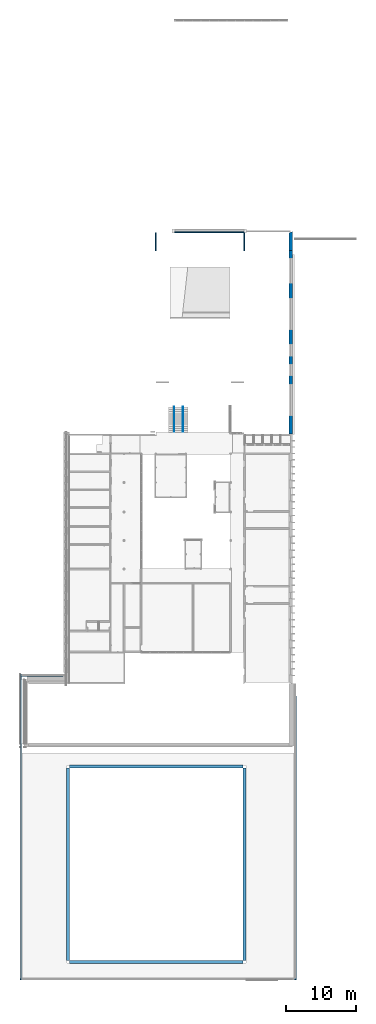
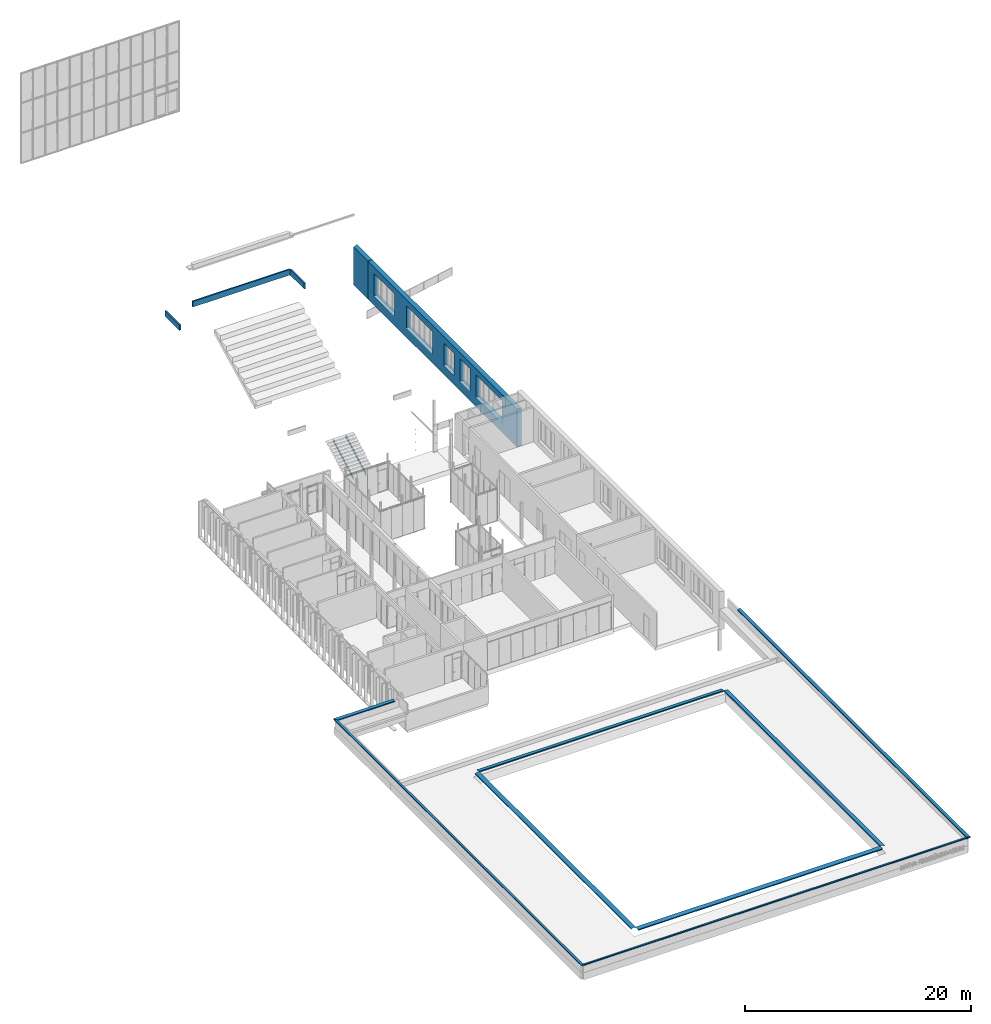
# One storey, part 33 of 387: 8 discrete accessories, 5 walls, 2 stairs, 5 openings.
"""IFC2X3 building model written with IfcOpenShell, lengths in millimetres."""

from ifc_helpers import new_model, entity, si_unit, converted_unit, derived_unit, money_unit, direction, frame, origin_with_axes, origin_2d_with_axis, place, context, subcontext, project, spatial, polyline, rectangle, outline, extrude, faceted_brep, source, transform, mapped, material, layer, layer_set, layer_usage, type_object, element, save


model = new_model("IFC2X3")

# Units and contexts
model_context = context("Model", 3, precision=0.01, world=origin_with_axes(), true_north=direction((0.0, 1.0)))
body_context = subcontext(model_context, "Body", "Model", "MODEL_VIEW")
ifc_project = project(units=[si_unit("LENGTHUNIT", "METRE", prefix="MILLI"), si_unit("AREAUNIT", "SQUARE_METRE"), si_unit("VOLUMEUNIT", "CUBIC_METRE"), converted_unit("PLANEANGLEUNIT", "DEGREE", entity("IfcPlaneAngleMeasure", 0.0174532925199), si_unit("PLANEANGLEUNIT", "RADIAN"), dimensions=[0, 0, 0, 0, 0, 0, 0]), si_unit("SOLIDANGLEUNIT", "STERADIAN"), money_unit("EUR"), converted_unit("TIMEUNIT", "Year", entity("IfcTimeMeasure", 31556926.0), si_unit("TIMEUNIT", "SECOND"), dimensions=[0, 0, 1, 0, 0, 0, 0]), si_unit("MASSUNIT", "GRAM", prefix="KILO"), si_unit("THERMODYNAMICTEMPERATUREUNIT", "DEGREE_CELSIUS"), si_unit("LUMINOUSINTENSITYUNIT", "LUMEN"), si_unit("ENERGYUNIT", "JOULE", prefix="MEGA"), derived_unit("THERMALCONDUCTANCEUNIT", [(si_unit("POWERUNIT", "WATT"), 1), (si_unit("LENGTHUNIT", "METRE"), -1), (si_unit("THERMODYNAMICTEMPERATUREUNIT", "KELVIN"), -1)]), derived_unit("SPECIFICHEATCAPACITYUNIT", [(si_unit("ENERGYUNIT", "JOULE"), 1), (si_unit("MASSUNIT", "GRAM", prefix="KILO"), -1), (si_unit("THERMODYNAMICTEMPERATUREUNIT", "KELVIN"), -1)]), derived_unit("MASSDENSITYUNIT", [(si_unit("MASSUNIT", "GRAM", prefix="KILO"), 1), (si_unit("VOLUMEUNIT", "CUBIC_METRE"), -1)])], contexts=[model_context])

# Site, building, storey
site_placement = place(None, origin_with_axes())
site = spatial("IfcSite", under=ifc_project, at=site_placement, Name="Puškini 31, Narva", CompositionType="ELEMENT")
building_placement = place(site_placement, origin_with_axes())
building = spatial("IfcBuilding", under=site, at=building_placement, Name="Narva Riigigümnaasium", CompositionType="ELEMENT")
storey_placement = place(building_placement, frame((0.0, 0.0, 2640.0), z_axis=(0.0, 0.0, 1.0), x_axis=(1.0, 0.0, 0.0)))
storey = spatial("IfcBuildingStorey", under=building, at=storey_placement, Name="2.korrus +2.64", CompositionType="ELEMENT", Elevation=2640.0)

# Wall, openings
ifc_material_1 = material(Name="fassaadiplaat")
ifc_layer_1 = layer(ifc_material_1, 8.0, ventilated="UNKNOWN")
ifc_material_2 = material(Name="Salto-roovitus")
ifc_layer_2 = layer(ifc_material_2, 50.0, ventilated="UNKNOWN")
ifc_material_3 = material(Name="Salto-PIR soojustus")
ifc_layer_3 = layer(ifc_material_3, 50.0, ventilated="UNKNOWN")
ifc_layer_4 = layer(ifc_material_3, 150.0, ventilated="UNKNOWN")
ifc_material_4 = material(Name="Betoon element")
ifc_layer_5 = layer(ifc_material_4, 200.0, ventilated="UNKNOWN")
ifc_material_5 = material(Name="Salto-siseviimistlus-seinad")
ifc_layer_6 = layer(ifc_material_5, 10.0, ventilated="UNKNOWN")
ifc_layer_set_1 = layer_set([ifc_layer_1, ifc_layer_2, ifc_layer_3, ifc_layer_4, ifc_layer_5, ifc_layer_6], Name="G-VS-01")
ifc_layer_usage_1 = layer_usage(ifc_layer_set_1, "AXIS2", "POSITIVE", -458.0)
wall_type_1 = type_object("IfcWallType", Name="G-VS-01 468", PredefinedType="NOTDEFINED")
wall_1_placement = place(storey_placement, frame((53999.999986, 194900.0, -2375.0), z_axis=(0.0, 0.0, 1.0), x_axis=(0.0, 1.0, 0.0)))
wall_1 = element("IfcWallStandardCase", 1, at=wall_1_placement, inside=storey, type_object=wall_type_1, material=ifc_layer_usage_1, Name="Välissein", context=body_context, shape_type="SweptSolid", body=[
    extrude(outline(polyline([(0.0, -458.0), (26379.9999984, -458.0), (26379.9999984, 10.0), (0.0, 10.0), (0.0, -458.0)])), origin_with_axes(), (0.0, 0.0, 1.0), 4095.0),
])
opening_1_placement = place(wall_1_placement, frame((23450.0000001, 0.0, 995.0), z_axis=(0.0, 0.0, 1.0), x_axis=(1.0, 0.0, 0.0)))
element("IfcOpeningElement", 2, at=opening_1_placement, cuts=wall_1, Name="G-A-19", context=body_context, shape_type="SweptSolid", body=[
    extrude(rectangle(XDim=3650.0, YDim=2430.0, at=origin_2d_with_axis()), frame((0.0, -308.0, 1215.0), z_axis=(0.0, -1.0, 0.0), x_axis=(1.0, 0.0, 0.0)), (0.0, 0.0, -1.0), 786.0),
    extrude(rectangle(XDim=3650.0, YDim=2430.0, at=origin_2d_with_axis()), frame((0.0, -308.0, 1215.0), z_axis=(0.0, 1.0, 0.0), x_axis=(1.0, 0.0, 0.0)), (0.0, 0.0, -1.0), 618.0),
])
opening_2_placement = place(wall_1_placement, frame((17275.0000001, 0.0, 995.0), z_axis=(0.0, 0.0, 1.0), x_axis=(1.0, 0.0, 0.0)))
element("IfcOpeningElement", 3, at=opening_2_placement, cuts=wall_1, Name="G-A-23", context=body_context, shape_type="SweptSolid", body=[
    extrude(rectangle(XDim=4600.0, YDim=2430.0, at=origin_2d_with_axis()), frame((0.0, -308.0, 1215.0), z_axis=(0.0, -1.0, 0.0), x_axis=(1.0, 0.0, 0.0)), (0.0, 0.0, -1.0), 786.0),
    extrude(rectangle(XDim=4600.0, YDim=2430.0, at=origin_2d_with_axis()), frame((0.0, -308.0, 1215.0), z_axis=(0.0, 1.0, 0.0), x_axis=(1.0, 0.0, 0.0)), (0.0, 0.0, -1.0), 618.0),
])
opening_3_placement = place(wall_1_placement, frame((12050.0000001, 0.0, 995.0), z_axis=(0.0, 0.0, 1.0), x_axis=(1.0, 0.0, 0.0)))
element("IfcOpeningElement", 4, at=opening_3_placement, cuts=wall_1, Name="G-A-08", context=body_context, shape_type="SweptSolid", body=[
    extrude(rectangle(XDim=1750.0, YDim=2430.0, at=origin_2d_with_axis()), frame((0.0, -308.0, 1215.0), z_axis=(0.0, 1.0, 0.0), x_axis=(-1.0, 0.0, 0.0)), (0.0, 0.0, 1.0), 786.0),
    extrude(rectangle(XDim=1750.0, YDim=2430.0, at=origin_2d_with_axis()), frame((0.0, -308.0, 1215.0), z_axis=(0.0, -1.0, 0.0), x_axis=(-1.0, 0.0, 0.0)), (0.0, 0.0, 1.0), 618.0),
])
opening_4_placement = place(wall_1_placement, frame((9200.00000013, 0.0, 995.0), z_axis=(0.0, 0.0, 1.0), x_axis=(1.0, 0.0, 0.0)))
element("IfcOpeningElement", 5, at=opening_4_placement, cuts=wall_1, Name="G-A-08", context=body_context, shape_type="SweptSolid", body=[
    extrude(rectangle(XDim=1750.0, YDim=2430.0, at=origin_2d_with_axis()), frame((0.0, -308.0, 1215.0), z_axis=(0.0, -1.0, 0.0), x_axis=(1.0, 0.0, 0.0)), (0.0, 0.0, -1.0), 786.0),
    extrude(rectangle(XDim=1750.0, YDim=2430.0, at=origin_2d_with_axis()), frame((0.0, -308.0, 1215.0), z_axis=(0.0, 1.0, 0.0), x_axis=(1.0, 0.0, 0.0)), (0.0, 0.0, -1.0), 618.0),
])
opening_5_placement = place(wall_1_placement, frame((4924.99999977, 0.0, 995.0), z_axis=(0.0, 0.0, 1.0), x_axis=(1.0, 0.0, 0.0)))
element("IfcOpeningElement", 6, at=opening_5_placement, cuts=wall_1, Name="G-A-23", context=body_context, shape_type="SweptSolid", body=[
    extrude(rectangle(XDim=4599.99999927, YDim=2430.0, at=origin_2d_with_axis()), frame((0.0, -308.0, 1215.0), z_axis=(0.0, -1.0, 0.0), x_axis=(1.0, 0.0, 0.0)), (0.0, 0.0, -1.0), 786.0),
    extrude(rectangle(XDim=4599.99999927, YDim=2430.0, at=origin_2d_with_axis()), frame((0.0, -308.0, 1215.0), z_axis=(0.0, 1.0, 0.0), x_axis=(1.0, 0.0, 0.0)), (0.0, 0.0, -1.0), 618.0),
])

# Walls
ifc_layer_set_2 = layer_set([ifc_layer_1, ifc_layer_2, ifc_layer_3, ifc_layer_4, ifc_layer_5], Name="G-VS-01-01")
ifc_layer_usage_2 = layer_usage(ifc_layer_set_2, "AXIS2", "POSITIVE", -458.0)
wall_type_2 = type_object("IfcWallType", Name="G-VS-01-01 458", PredefinedType="NOTDEFINED")
wall_2_placement = place(storey_placement, frame((53999.999986, 221279.999999, -2375.0), z_axis=(0.0, 0.0, 1.0), x_axis=(0.0, 1.0, 0.0)))
element("IfcWallStandardCase", 7, at=wall_2_placement, inside=storey, type_object=wall_type_2, material=ifc_layer_usage_2, Name="Välissein", context=body_context, shape_type="SweptSolid", body=[
    extrude(outline(polyline([(0.0, -458.0), (2730.00000689, -458.0), (2520.00000689, 0.0), (0.0, 0.0), (0.0, -458.0)])), origin_with_axes(), (0.0, 0.0, 1.0), 4095.0),
])
ifc_material_6 = material(Name="SKR-02_Kipsplaat")
ifc_layer_7 = layer(ifc_material_6, 12.5, ventilated="UNKNOWN")
ifc_material_7 = material(Name="SOJ-03_Soojustus - Mineraal Pehme")
ifc_layer_8 = layer(ifc_material_7, 100.0, ventilated="UNKNOWN")
ifc_layer_set_3 = layer_set([ifc_layer_7, ifc_layer_7, ifc_layer_8, ifc_layer_7, ifc_layer_7], Name="G-SS-09")
ifc_layer_usage_3 = layer_usage(ifc_layer_set_3, "AXIS2", "POSITIVE", 0.0)
wall_type_3 = type_object("IfcWallType", Name="G-SS-09 150", PredefinedType="NOTDEFINED")
wall_3_placement = place(storey_placement, frame((34899.9999996, 221279.988083, 970.0), z_axis=(0.0, 0.0, 1.0), x_axis=(0.0, 1.0, 0.0)))
element("IfcWallStandardCase", 8, at=wall_3_placement, inside=storey, type_object=wall_type_3, material=ifc_layer_usage_3, Name="Sisesein", context=body_context, shape_type="SweptSolid", body=[
    extrude(outline(polyline([(0.0, 0.0), (2520.01191667, 0.0), (2520.01191667, 150.0), (-2.52600784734e-06, 150.0), (0.0, 0.0)])), origin_with_axes(), (0.0, 0.0, 1.0), 605.0),
])
wall_4_placement = place(storey_placement, frame((47649.9950335, 221079.999999, 970.0), z_axis=(0.0, 0.0, 1.0), x_axis=(0.0, 1.0, 0.0)))
element("IfcWallStandardCase", 9, at=wall_4_placement, inside=storey, type_object=wall_type_3, material=ifc_layer_usage_3, Name="Sisesein", context=body_context, shape_type="SweptSolid", body=[
    extrude(outline(polyline([(200.0, 0.0), (2720.00000127, 0.0), (2720.00000127, 150.0), (200.0, 150.0), (200.0, 0.0)])), origin_with_axes(), (0.0, 0.0, 1.0), 605.0),
])
wall_5_placement = place(storey_placement, frame((37600.0, 223800.000007, 970.0), z_axis=(0.0, 0.0, 1.0), x_axis=(1.0, 0.0, 0.0)))
element("IfcWallStandardCase", 10, at=wall_5_placement, inside=storey, type_object=wall_type_3, material=ifc_layer_usage_3, Name="Sisesein", context=body_context, shape_type="SweptSolid", body=[
    extrude(outline(polyline([(0.0, 0.0), (9899.99999357, 0.0), (9899.99999357, 150.0), (0.0, 150.0), (0.0, 0.0)])), origin_with_axes(), (0.0, 0.0, 1.0), 605.0),
])

# Stairs
ifc_material_8 = material(Name="ET-03_Raud")
shared_shape = source(origin_with_axes(), body_context, "Body", "Brep", [
    faceted_brep([(-0.846762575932, 387.789206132, 0.0), (-0.84672905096, -23.2911253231, 0.0), (-0.846729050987, -23.2911253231, 10.0), (-0.84676257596, 387.789206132, 10.0), (277.740465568, 387.789206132, 0.0), (360.24045144, 552.789177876, 0.0), (577.740451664, 552.789177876, 0.0), (660.240488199, 717.789200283, 0.0), (877.740461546, 717.789200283, 0.0), (960.240498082, 882.789172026, 0.0), (1177.74045045, 882.789172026, 0.0), (1260.24038566, 1047.78919443, 0.0), (1477.74046163, 1047.78919443, 0.0), (1560.24039683, 1212.78921684, 0.0), (1777.74047369, 1212.78921684, 0.0), (1860.2404089, 1377.78923925, 0.0), (2077.74048396, 1377.78923925, 0.0), (2160.24057119, 1542.78926173, 0.0), (2377.74047078, 1542.78921105, 0.0), (2460.24045662, 1707.78918274, 0.0), (2677.74045705, 1707.78918274, 0.0), (2760.24044292, 1872.78920514, 0.0), (2977.74046853, 1872.78920514, 0.0), (3060.24050507, 2037.78922755, 0.0), (3277.74048021, 2037.78922755, 0.0), (3360.24051674, 2202.78919929, 0.0), (3599.15325093, 2202.78919929, 0.0), (3599.15325093, 1956.70883758, 0.0), (3599.15325093, 1956.70883758, 10.0), (277.740465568, 387.789206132, 10.0), (3599.15325093, 2202.78919929, 10.0), (3360.24051674, 2202.78919929, 10.0), (3277.74048021, 2037.78922755, 10.0), (3060.24050507, 2037.78922755, 10.0), (2977.74046853, 1872.78920514, 10.0), (2760.24044292, 1872.78920514, 10.0), (2677.74045705, 1707.78918274, 10.0), (2460.24045662, 1707.78918274, 10.0), (2377.74047078, 1542.78921105, 10.0), (2160.24057119, 1542.78926173, 10.0), (2077.74048396, 1377.78923925, 10.0), (1860.2404089, 1377.78923925, 10.0), (1777.74047369, 1212.78921684, 10.0), (1560.24039683, 1212.78921684, 10.0), (1477.74046163, 1047.78919443, 10.0), (1260.24038566, 1047.78919443, 10.0), (1177.74045045, 882.789172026, 10.0), (960.240498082, 882.789172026, 10.0), (877.740461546, 717.789200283, 10.0), (660.240488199, 717.789200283, 10.0), (577.740451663, 552.789177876, 10.0), (360.24045144, 552.789177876, 10.0)], [[[0, 1, 2, 3]], [[1, 0, 4, 5, 6, 7, 8, 9, 10, 11, 12, 13, 14, 15, 16, 17, 18, 19, 20, 21, 22, 23, 24, 25, 26, 27]], [[2, 1, 27, 28]], [[29, 3, 2, 28, 30, 31, 32, 33, 34, 35, 36, 37, 38, 39, 40, 41, 42, 43, 44, 45, 46, 47, 48, 49, 50, 51]], [[4, 0, 3, 29]], [[4, 29, 51, 5]], [[6, 5, 51, 50]], [[7, 6, 50, 49]], [[8, 7, 49, 48]], [[8, 48, 47, 9]], [[10, 9, 47, 46]], [[10, 46, 45, 11]], [[12, 11, 45, 44]], [[13, 12, 44, 43]], [[14, 13, 43, 42]], [[14, 42, 41, 15]], [[16, 15, 41, 40]], [[16, 40, 39, 17]], [[18, 17, 39, 38]], [[19, 18, 38, 37]], [[20, 19, 37, 36]], [[20, 36, 35, 21]], [[22, 21, 35, 34]], [[22, 34, 33, 23]], [[24, 23, 33, 32]], [[24, 32, 31, 25]], [[26, 25, 31, 30]], [[27, 26, 30, 28]]]),
])
for number, where, z_axis, x_axis, name in (
    (11, (37469.0103432, 195229.31808, -275.261342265), (1.0, 0.0, 0.0), (0.0, 1.0, 0.0), "MORPH-004"),
    (12, (38751.0103425, 195229.31808, -275.261342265), (1.0, 0.0, 0.0), (0.0, 1.0, 0.0), "MORPH-004"),
):
    element("IfcStair", number, at=place(storey_placement, frame(where, z_axis=z_axis, x_axis=x_axis)), inside=storey, material=ifc_material_8, Name=name, ShapeType="NOTDEFINED", context=body_context, shape_type="MappedRepresentation", body=[
        mapped(shared_shape, transform((0.0, 0.0, 0.0))),
    ])

# Discrete accessories
ifc_material_9 = material(Name="Teras")
discrete_accessory_type_1 = type_object("IfcDiscreteAccessoryType", Name="G-VS-03-P2 263 x 179")
discrete_accessory_1_placement = place(storey_placement, frame((15333.0, 160396.999992, 2790.0), z_axis=(0.0, 0.0, 1.0), x_axis=(0.0, -1.0, 0.0)))
element("IfcDiscreteAccessory", 13, at=discrete_accessory_1_placement, inside=storey, type_object=discrete_accessory_type_1, material=ifc_material_9, Name="Parapetiplekk", context=body_context, shape_type="SweptSolid", body=[
    extrude(outline(polyline([(-253.000008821, -173.899999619), (-252.000008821, -173.899999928), (-252.000006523, -166.48578336), (-262.000007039, -176.485784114), (-262.00000727, -79.6440283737), (-0.999999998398, -1.34403062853), (-0.999999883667, -97.5857864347), (-10.9999998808, -87.5857864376), (-10.9999998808, -95.0), (-9.99999988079, -90.0), (1.19211307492e-07, -100.0), (0.0, 0.0), (-263.000007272, -78.8999977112), (-263.000007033, -178.899997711), (-253.000007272, -168.899997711), (-253.000008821, -173.899999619)])), frame((0.0, 0.0, 0.0), z_axis=(-1.0, 0.0, 0.0), x_axis=(0.0, -1.0, 0.0)), (0.0, 0.0, -1.0), 43934.4965127),
])
discrete_accessory_2_placement = place(storey_placement, frame((15332.9999999, 116462.503479, 2790.0), z_axis=(0.0, 0.0, 1.0), x_axis=(1.0, 0.0, 0.0)))
element("IfcDiscreteAccessory", 14, at=discrete_accessory_2_placement, inside=storey, type_object=discrete_accessory_type_1, material=ifc_material_9, Name="Parapetiplekk", context=body_context, shape_type="SweptSolid", body=[
    extrude(outline(polyline([(-253.000008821, -173.899999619), (-252.000008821, -173.899999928), (-252.000006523, -166.48578336), (-262.000007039, -176.485784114), (-262.00000727, -79.6440283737), (-0.999999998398, -1.34403062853), (-0.999999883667, -97.5857864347), (-10.9999998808, -87.5857864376), (-10.9999998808, -95.0), (-9.99999988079, -90.0), (1.19211307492e-07, -100.0), (0.0, 0.0), (-263.000007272, -78.8999977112), (-263.000007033, -178.899997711), (-253.000007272, -168.899997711), (-253.000008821, -173.899999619)])), frame((0.0, 0.0, 0.0), z_axis=(-1.0, 0.0, 0.0), x_axis=(0.0, -1.0, 0.0)), (0.0, 0.0, -1.0), 39666.0),
])
discrete_accessory_3_placement = place(storey_placement, frame((54998.9999998, 116462.503479, 2790.0), z_axis=(0.0, 0.0, 1.0), x_axis=(0.0, 1.0, 0.0)))
element("IfcDiscreteAccessory", 15, at=discrete_accessory_3_placement, inside=storey, type_object=discrete_accessory_type_1, material=ifc_material_9, Name="Parapetiplekk", context=body_context, shape_type="SweptSolid", body=[
    extrude(outline(polyline([(-253.000008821, -173.899999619), (-252.000008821, -173.899999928), (-252.000006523, -166.48578336), (-262.000007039, -176.485784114), (-262.00000727, -79.6440283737), (-0.999999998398, -1.34403062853), (-0.999999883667, -97.5857864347), (-10.9999998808, -87.5857864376), (-10.9999998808, -95.0), (-9.99999988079, -90.0), (1.19211307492e-07, -100.0), (0.0, 0.0), (-263.000007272, -78.8999977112), (-263.000007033, -178.899997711), (-253.000007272, -168.899997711), (-253.000008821, -173.899999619)])), frame((0.0, 0.0, 0.0), z_axis=(-1.0, 0.0, 0.0), x_axis=(0.0, -1.0, 0.0)), (0.0, 0.0, -1.0), 40729.4965215),
])
discrete_accessory_4_placement = place(storey_placement, frame((21442.0, 160396.999992, 2790.0), z_axis=(0.0, 0.0, 1.0), x_axis=(-1.0, 0.0, 0.0)))
element("IfcDiscreteAccessory", 16, at=discrete_accessory_4_placement, inside=storey, type_object=discrete_accessory_type_1, material=ifc_material_9, Name="Parapetiplekk", context=body_context, shape_type="SweptSolid", body=[
    extrude(outline(polyline([(-253.000008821, -173.899999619), (-252.000008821, -173.899999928), (-252.000006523, -166.48578336), (-262.000007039, -176.485784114), (-262.00000727, -79.6440283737), (-0.999999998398, -1.34403062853), (-0.999999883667, -97.5857864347), (-10.9999998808, -87.5857864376), (-10.9999998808, -95.0), (-9.99999988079, -90.0), (1.19211307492e-07, -100.0), (0.0, 0.0), (-263.000007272, -78.8999977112), (-263.000007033, -178.899997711), (-253.000007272, -168.899997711), (-253.000008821, -173.899999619)])), frame((0.0, 0.0, 0.0), z_axis=(-1.0, 0.0, 0.0), x_axis=(0.0, -1.0, 0.0)), (0.0, 0.0, -1.0), 6109.0),
])
ifc_material_10 = material(Name="Teras - Konstruktsioon")
discrete_accessory_type_2 = type_object("IfcDiscreteAccessoryType", Name="Parapetiplekk_varikatus 413 x 171")
for number, where, z_axis, x_axis in (
    (17, (22423.3673643, 119243.000628, 2790.0), (0.0, 0.0, 1.0), (0.0, 1.0, 0.0)),
    (18, (47407.0000003, 146906.999996, 2790.0), (0.0, 0.0, 1.0), (0.0, -1.0, 0.0)),
):
    element("IfcDiscreteAccessory", number, at=place(storey_placement, frame(where, z_axis=z_axis, x_axis=x_axis)), inside=storey, type_object=discrete_accessory_type_2, material=ifc_material_10, Name="Parapetiplekk", context=body_context, shape_type="SweptSolid", body=[
        extrude(outline(polyline([(-10.9999997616, -105.000001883), (-9.99999964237, -100.000001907), (2.38417285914e-07, -110.000001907), (0.0, 0.0), (-413.000005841, -70.7999954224), (-413.000005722, -170.799995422), (-403.00000596, -160.799995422), (-403.00000751, -165.79999733), (-402.000005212, -158.385781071), (-412.000005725, -168.385781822), (-412.00000584, -71.6431543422), (-0.999999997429, -1.18601603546), (-0.999999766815, -107.585788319), (-10.9999995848, -97.5857883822), (-10.9999997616, -105.000001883)])), frame((0.0, 0.0, 0.0), z_axis=(-1.0, 0.0, 0.0), x_axis=(0.0, -1.0, 0.0)), (0.0, 0.0, -1.0), 27663.9993676),
    ])
for number, where, z_axis, x_axis in (
    (19, (47407.0000003, 119243.000628, 2790.0), (0.0, 0.0, 1.0), (-1.0, 0.0, 0.0)),
    (20, (22423.3673645, 146906.999996, 2790.0), (0.0, 0.0, 1.0), (1.0, 0.0, 0.0)),
):
    element("IfcDiscreteAccessory", number, at=place(storey_placement, frame(where, z_axis=z_axis, x_axis=x_axis)), inside=storey, type_object=discrete_accessory_type_2, material=ifc_material_10, Name="Parapetiplekk", context=body_context, shape_type="SweptSolid", body=[
        extrude(outline(polyline([(-10.9999997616, -105.000001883), (-9.99999964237, -100.000001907), (2.38417285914e-07, -110.000001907), (0.0, 0.0), (-413.000005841, -70.7999954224), (-413.000005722, -170.799995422), (-403.00000596, -160.799995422), (-403.00000751, -165.79999733), (-402.000005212, -158.385781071), (-412.000005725, -168.385781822), (-412.00000584, -71.6431543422), (-0.999999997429, -1.18601603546), (-0.999999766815, -107.585788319), (-10.9999995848, -97.5857883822), (-10.9999997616, -105.000001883)])), frame((0.0, 0.0, 0.0), z_axis=(-1.0, 0.0, 0.0), x_axis=(0.0, -1.0, 0.0)), (0.0, 0.0, -1.0), 24983.6326358),
    ])

save(model, "model.ifc")
